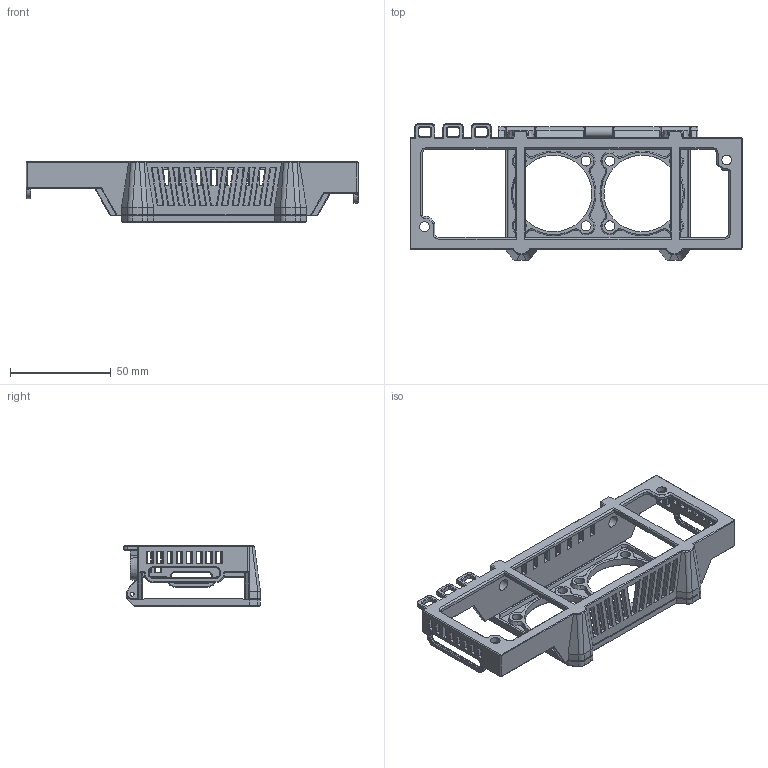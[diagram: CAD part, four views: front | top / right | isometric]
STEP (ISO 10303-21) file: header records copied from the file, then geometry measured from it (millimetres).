
FILE_DESCRIPTION(/* description */ (''),/* implementation_level */ '2;1');
FILE_NAME(/* name */ 'Cage for power supply v4.step',/* time_stamp */ '2025-09-10T10:54:28+08:00',/* author */ (''),/* organization */ (''),/* preprocessor_version */ 'ST-DEVELOPER v20.1',/* originating_system */ 'Autodesk Translation Framework v14.10.0.0',/* authorisation */ '');
FILE_SCHEMA (('AUTOMOTIVE_DESIGN { 1 0 10303 214 3 1 1 }'));
Length unit declared in the file: millimetre
Products named in the file (1): Cage for power supply
Bounding box: 165 x 68 x 30.12 mm (x, y, z)
Volume: 39044.4 mm3; surface area: 36396.9 mm2
Topology: 2 solids, 2 shells, 936 faces, 2545 edges, 1588 vertices
Faces by surface type: plane 451, cylinder 285, cone 158, torus 30, bspline 12
Full cylindrical faces by diameter (mm): 2 x7, 4.92 x14, 5.92 x2, 6.4 x2, 38 x2
Entity records: 29709 total; most frequent: CARTESIAN_POINT 5322, DIRECTION 5171, ORIENTED_EDGE 5090, EDGE_CURVE 2545, AXIS2_PLACEMENT_3D 1725, LINE 1721, VECTOR 1721, VERTEX_POINT 1588
